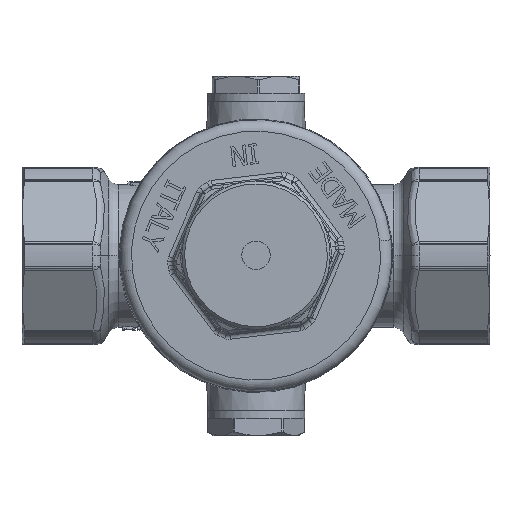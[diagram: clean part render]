
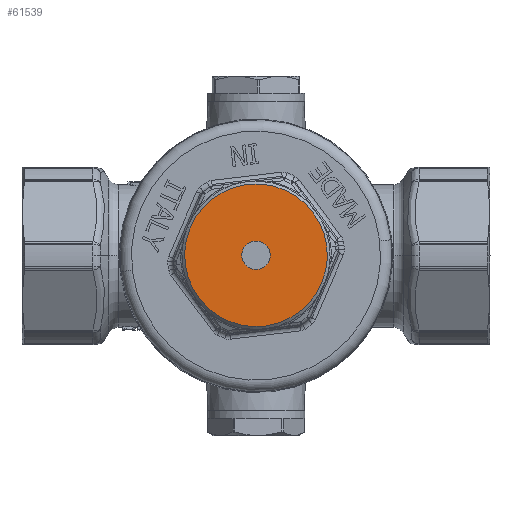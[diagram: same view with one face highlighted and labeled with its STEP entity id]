
A CAD part, top view. The second image highlights one B-rep face of the part: STEP entity #61539.
In plain terms, the highlighted planar face has unit normal (0, 0, 1) as drawn and (0, 0, -1) by its records, which use the part's own axes.
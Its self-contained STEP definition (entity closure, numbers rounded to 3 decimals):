
#129 = ORIENTED_EDGE ( 'NONE', *, *, #26974, .F. ) ;
#1648 = ORIENTED_EDGE ( 'NONE', *, *, #17516, .F. ) ;
#2447 = CARTESIAN_POINT ( 'NONE',  ( -12.5, 0., 0. ) ) ;
#3708 = DIRECTION ( 'NONE',  ( -1., 0., 0. ) ) ;
#9068 = VERTEX_POINT ( 'NONE', #2447 ) ;
#9521 = DIRECTION ( 'NONE',  ( 0., 0., 1. ) ) ;
#11124 = CIRCLE ( 'NONE', #35035, 2.5 ) ;
#12882 = CARTESIAN_POINT ( 'NONE',  ( 12.5, 0., 0. ) ) ;
#13449 = CARTESIAN_POINT ( 'NONE',  ( -2.5, 0., 0. ) ) ;
#16141 = CARTESIAN_POINT ( 'NONE',  ( 0., 0., 0. ) ) ;
#16277 = AXIS2_PLACEMENT_3D ( 'NONE', #41806, #83096, #68631 ) ;
#17516 = EDGE_CURVE ( 'NONE', #39756, #9068, #84918, .T. ) ;
#19854 = CARTESIAN_POINT ( 'NONE',  ( 0., 0., 0. ) ) ;
#23034 = DIRECTION ( 'NONE',  ( 0., 0., 1. ) ) ;
#24946 = CIRCLE ( 'NONE', #85315, 2.5 ) ;
#26502 = PLANE ( 'NONE',  #51325 ) ;
#26974 = EDGE_CURVE ( 'NONE', #9068, #39756, #37289, .T. ) ;
#35035 = AXIS2_PLACEMENT_3D ( 'NONE', #16141, #9521, #36345 ) ;
#36345 = DIRECTION ( 'NONE',  ( -1., 0., 0. ) ) ;
#37099 = CARTESIAN_POINT ( 'NONE',  ( 0., 0., 0. ) ) ;
#37289 = CIRCLE ( 'NONE', #16277, 12.5 ) ;
#38106 = VERTEX_POINT ( 'NONE', #13449 ) ;
#38615 = AXIS2_PLACEMENT_3D ( 'NONE', #37099, #23034, #3708 ) ;
#39756 = VERTEX_POINT ( 'NONE', #12882 ) ;
#41806 = CARTESIAN_POINT ( 'NONE',  ( 0., 0., 0. ) ) ;
#45454 = CARTESIAN_POINT ( 'NONE',  ( 0., 0., 0. ) ) ;
#46688 = DIRECTION ( 'NONE',  ( 0., 0., -1. ) ) ;
#48302 = CARTESIAN_POINT ( 'NONE',  ( 2.5, 0., 0. ) ) ;
#51325 = AXIS2_PLACEMENT_3D ( 'NONE', #19854, #46688, #73488 ) ;
#53960 = EDGE_LOOP ( 'NONE', ( #129, #1648 ) ) ;
#61539 = ADVANCED_FACE ( 'NONE', ( #86722, #81843 ), #26502, .T. ) ;
#68631 = DIRECTION ( 'NONE',  ( -1., 0., 0. ) ) ;
#71419 = ORIENTED_EDGE ( 'NONE', *, *, #76052, .T. ) ;
#72249 = DIRECTION ( 'NONE',  ( 0., 0., 1. ) ) ;
#73488 = DIRECTION ( 'NONE',  ( 0., -1., 0. ) ) ;
#74290 = EDGE_CURVE ( 'NONE', #38106, #82867, #24946, .T. ) ;
#76052 = EDGE_CURVE ( 'NONE', #82867, #38106, #11124, .T. ) ;
#79303 = DIRECTION ( 'NONE',  ( -1., 0., 0. ) ) ;
#80292 = EDGE_LOOP ( 'NONE', ( #80856, #71419 ) ) ;
#80856 = ORIENTED_EDGE ( 'NONE', *, *, #74290, .T. ) ;
#81843 = FACE_OUTER_BOUND ( 'NONE', #53960, .T. ) ;
#82867 = VERTEX_POINT ( 'NONE', #48302 ) ;
#83096 = DIRECTION ( 'NONE',  ( 0., 0., 1. ) ) ;
#84918 = CIRCLE ( 'NONE', #38615, 12.5 ) ;
#85315 = AXIS2_PLACEMENT_3D ( 'NONE', #45454, #72249, #79303 ) ;
#86722 = FACE_BOUND ( 'NONE', #80292, .T. ) ;
